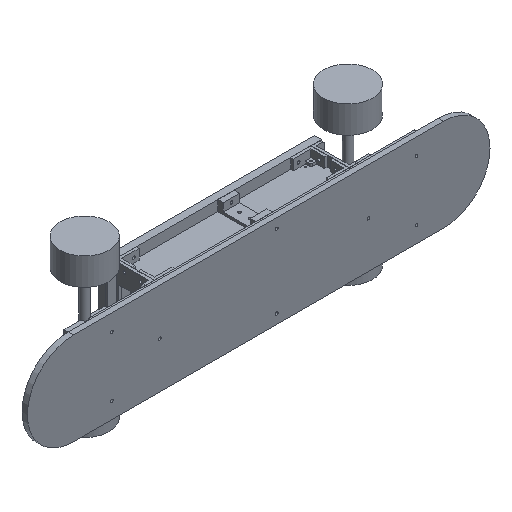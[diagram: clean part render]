
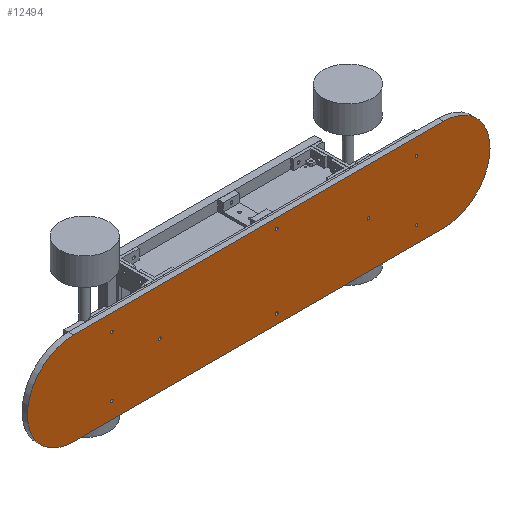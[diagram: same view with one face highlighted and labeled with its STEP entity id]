
A CAD part, isometric view. The second image highlights one B-rep face of the part: STEP entity #12494.
In plain terms, the highlighted planar face has unit normal (0, -1, 0).
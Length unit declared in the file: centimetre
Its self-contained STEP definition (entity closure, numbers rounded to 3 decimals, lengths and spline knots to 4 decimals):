
#352=FACE_BOUND('',#2129,.T.);
#353=FACE_BOUND('',#2130,.T.);
#354=FACE_BOUND('',#2131,.T.);
#355=FACE_BOUND('',#2132,.T.);
#356=FACE_BOUND('',#2133,.T.);
#357=FACE_BOUND('',#2134,.T.);
#358=FACE_BOUND('',#2135,.T.);
#359=FACE_BOUND('',#2136,.T.);
#952=CIRCLE('',#13255,0.25);
#954=CIRCLE('',#13258,0.25);
#955=CIRCLE('',#13260,8.5);
#956=CIRCLE('',#13261,8.5);
#957=CIRCLE('',#13262,0.25);
#958=CIRCLE('',#13263,0.25);
#959=CIRCLE('',#13264,0.25);
#960=CIRCLE('',#13265,0.25);
#961=CIRCLE('',#13266,0.25);
#962=CIRCLE('',#13267,0.25);
#1397=FACE_OUTER_BOUND('',#2128,.T.);
#2128=EDGE_LOOP('',(#8845,#8846,#8847,#8848));
#2129=EDGE_LOOP('',(#8849));
#2130=EDGE_LOOP('',(#8850));
#2131=EDGE_LOOP('',(#8851));
#2132=EDGE_LOOP('',(#8852));
#2133=EDGE_LOOP('',(#8853));
#2134=EDGE_LOOP('',(#8854));
#2135=EDGE_LOOP('',(#8855));
#2136=EDGE_LOOP('',(#8856));
#3398=LINE('',#17989,#4617);
#3399=LINE('',#17992,#4618);
#4617=VECTOR('',#14528,1.);
#4618=VECTOR('',#14531,1.);
#5849=VERTEX_POINT('',#17977);
#5851=VERTEX_POINT('',#17982);
#5852=VERTEX_POINT('',#17985);
#5853=VERTEX_POINT('',#17986);
#5854=VERTEX_POINT('',#17988);
#5855=VERTEX_POINT('',#17990);
#5856=VERTEX_POINT('',#17993);
#5857=VERTEX_POINT('',#17995);
#5858=VERTEX_POINT('',#17997);
#5859=VERTEX_POINT('',#17999);
#5860=VERTEX_POINT('',#18001);
#5861=VERTEX_POINT('',#18003);
#7103=EDGE_CURVE('',#5849,#5849,#952,.T.);
#7105=EDGE_CURVE('',#5851,#5851,#954,.T.);
#7106=EDGE_CURVE('',#5852,#5853,#955,.T.);
#7107=EDGE_CURVE('',#5852,#5854,#3398,.T.);
#7108=EDGE_CURVE('',#5855,#5854,#956,.T.);
#7109=EDGE_CURVE('',#5855,#5853,#3399,.T.);
#7110=EDGE_CURVE('',#5856,#5856,#957,.T.);
#7111=EDGE_CURVE('',#5857,#5857,#958,.T.);
#7112=EDGE_CURVE('',#5858,#5858,#959,.T.);
#7113=EDGE_CURVE('',#5859,#5859,#960,.T.);
#7114=EDGE_CURVE('',#5860,#5860,#961,.T.);
#7115=EDGE_CURVE('',#5861,#5861,#962,.T.);
#8845=ORIENTED_EDGE('',*,*,#7106,.F.);
#8846=ORIENTED_EDGE('',*,*,#7107,.T.);
#8847=ORIENTED_EDGE('',*,*,#7108,.F.);
#8848=ORIENTED_EDGE('',*,*,#7109,.T.);
#8849=ORIENTED_EDGE('',*,*,#7103,.T.);
#8850=ORIENTED_EDGE('',*,*,#7105,.T.);
#8851=ORIENTED_EDGE('',*,*,#7110,.T.);
#8852=ORIENTED_EDGE('',*,*,#7111,.T.);
#8853=ORIENTED_EDGE('',*,*,#7112,.T.);
#8854=ORIENTED_EDGE('',*,*,#7113,.T.);
#8855=ORIENTED_EDGE('',*,*,#7114,.T.);
#8856=ORIENTED_EDGE('',*,*,#7115,.T.);
#11999=PLANE('',#13259);
#12494=ADVANCED_FACE('',(#1397,#352,#353,#354,#355,#356,#357,#358,#359),
#11999,.T.);
#13255=AXIS2_PLACEMENT_3D('',#17978,#14516,#14517);
#13258=AXIS2_PLACEMENT_3D('',#17983,#14522,#14523);
#13259=AXIS2_PLACEMENT_3D('',#17984,#14524,#14525);
#13260=AXIS2_PLACEMENT_3D('',#17987,#14526,#14527);
#13261=AXIS2_PLACEMENT_3D('',#17991,#14529,#14530);
#13262=AXIS2_PLACEMENT_3D('',#17994,#14532,#14533);
#13263=AXIS2_PLACEMENT_3D('',#17996,#14534,#14535);
#13264=AXIS2_PLACEMENT_3D('',#17998,#14536,#14537);
#13265=AXIS2_PLACEMENT_3D('',#18000,#14538,#14539);
#13266=AXIS2_PLACEMENT_3D('',#18002,#14540,#14541);
#13267=AXIS2_PLACEMENT_3D('',#18004,#14542,#14543);
#14516=DIRECTION('center_axis',(0.,1.,0.));
#14517=DIRECTION('ref_axis',(1.,0.,0.));
#14522=DIRECTION('center_axis',(0.,1.,0.));
#14523=DIRECTION('ref_axis',(1.,0.,0.));
#14524=DIRECTION('center_axis',(0.,-1.,0.));
#14525=DIRECTION('ref_axis',(1.,0.,0.));
#14526=DIRECTION('center_axis',(0.,1.,0.));
#14527=DIRECTION('ref_axis',(-0.707,0.,0.707));
#14528=DIRECTION('',(1.,0.,0.));
#14529=DIRECTION('center_axis',(0.,1.,0.));
#14530=DIRECTION('ref_axis',(0.707,0.,0.707));
#14531=DIRECTION('',(-1.,0.,0.));
#14532=DIRECTION('center_axis',(0.,1.,0.));
#14533=DIRECTION('ref_axis',(1.,0.,0.));
#14534=DIRECTION('center_axis',(0.,1.,0.));
#14535=DIRECTION('ref_axis',(1.,0.,0.));
#14536=DIRECTION('center_axis',(0.,1.,0.));
#14537=DIRECTION('ref_axis',(1.,0.,0.));
#14538=DIRECTION('center_axis',(0.,1.,0.));
#14539=DIRECTION('ref_axis',(1.,0.,0.));
#14540=DIRECTION('center_axis',(0.,1.,0.));
#14541=DIRECTION('ref_axis',(1.,0.,0.));
#14542=DIRECTION('center_axis',(0.,1.,0.));
#14543=DIRECTION('ref_axis',(1.,0.,0.));
#17977=CARTESIAN_POINT('',(48.9,-0.7,7.5));
#17978=CARTESIAN_POINT('Origin',(49.15,-0.7,7.5));
#17982=CARTESIAN_POINT('',(10.6,-0.7,7.5));
#17983=CARTESIAN_POINT('Origin',(10.85,-0.7,7.5));
#17984=CARTESIAN_POINT('Origin',(29.,-0.7,7.5));
#17985=CARTESIAN_POINT('',(-5.,-0.7,-1.));
#17986=CARTESIAN_POINT('',(-5.,-0.7,16.));
#17987=CARTESIAN_POINT('Origin',(-5.,-0.7,7.5));
#17988=CARTESIAN_POINT('',(63.,-0.7,-1.));
#17989=CARTESIAN_POINT('',(71.5,-0.7,-1.));
#17990=CARTESIAN_POINT('',(63.,-0.7,16.));
#17991=CARTESIAN_POINT('Origin',(63.,-0.7,7.5));
#17992=CARTESIAN_POINT('',(-13.5,-0.7,16.));
#17993=CARTESIAN_POINT('',(32.05,-0.7,0.75));
#17994=CARTESIAN_POINT('Origin',(32.3,-0.7,0.75));
#17995=CARTESIAN_POINT('',(32.05,-0.7,14.25));
#17996=CARTESIAN_POINT('Origin',(32.3,-0.7,14.25));
#17997=CARTESIAN_POINT('',(57.75,-0.7,2.));
#17998=CARTESIAN_POINT('Origin',(58.,-0.7,2.));
#17999=CARTESIAN_POINT('',(57.75,-0.7,13.));
#18000=CARTESIAN_POINT('Origin',(58.,-0.7,13.));
#18001=CARTESIAN_POINT('',(1.75,-0.7,13.));
#18002=CARTESIAN_POINT('Origin',(2.,-0.7,13.));
#18003=CARTESIAN_POINT('',(1.75,-0.7,2.));
#18004=CARTESIAN_POINT('Origin',(2.,-0.7,2.));
